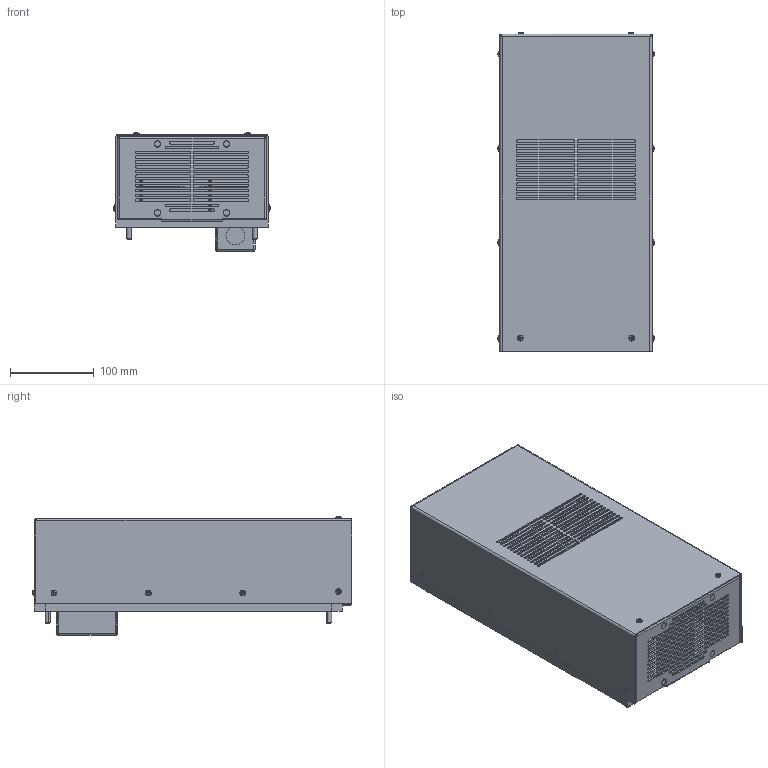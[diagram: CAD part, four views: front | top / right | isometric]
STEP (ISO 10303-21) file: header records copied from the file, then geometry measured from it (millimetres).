
FILE_DESCRIPTION (( 'STEP AP214' ), '1' );
FILE_NAME ('IQ700-800HE-CF.STEP', '2019-11-05T21:07:16', ( '' ), ( '' ), 'SwSTEP 2.0', 'SolidWorks 2019', '' );
FILE_SCHEMA (( 'AUTOMOTIVE_DESIGN' ));
Length unit declared in the file: inch
Products named in the file (1): IQ700-800HE-CF
Bounding box: 187.12 x 381.85 x 142.07 mm (x, y, z)
Surface area: 571199.3 mm2 (no closed solid volume)
Topology: 0 solids, 89 shells, 1314 faces, 4497 edges, 3182 vertices
Faces by surface type: plane 622, cylinder 457, torus 88, cone 63, sphere 56, bspline 28
Entity records: 87658 total; most frequent: CARTESIAN_POINT 32352, DIRECTION 7889, ORIENTED_EDGE 7499, EDGE_CURVE 4485, VERTEX_POINT 3182, AXIS2_PLACEMENT_3D 2772, LINE 2345, VECTOR 2345
